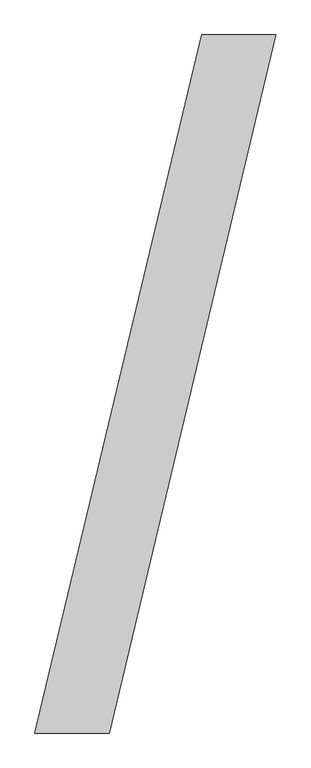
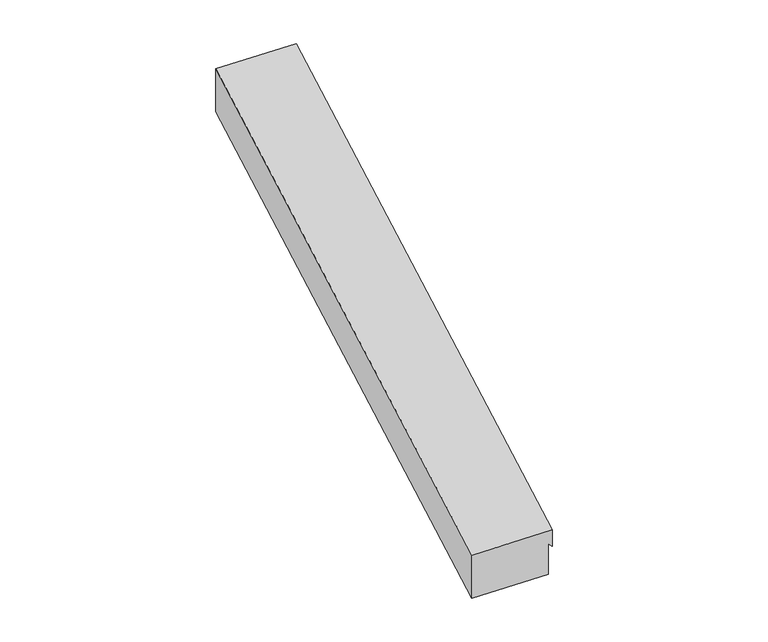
"""IFC4 building model written with IfcOpenShell, lengths in millimetres: proxy geometry, Contre-corniche S : contre-corniche S."""

from ifc_helpers import new_model, si_unit, origin, place, context, project, spatial, faceted_brep, source, transform, mapped, element, save


def generic_models_31f15003(model_context):
    return source(origin(), model_context, "Body", "Brep", [
        faceted_brep([(-4653.6345839, 2900.0, 6901.2365597), (-4036.7595141, 2900.0, 6887.8781754), (-4036.7595141, 2900.0, 6757.8723394), (-4067.6032676, 2900.0, 6787.9415784), (-4067.6032676, 2900.0, 6538.5303824), (-4653.6345839, 2900.0, 6551.2208475), (-5421.9915557, -2900.0, 6944.3820956), (-6038.8666255, -2900.0, 6957.7404799), (-6038.8666255, -2900.0, 6607.7247677), (-5452.8353092, -2900.0, 6595.0343026), (-5452.8353092, -2900.0, 6844.4454987), (-5421.9915557, -2900.0, 6814.3762596)], [[[0, 1, 2, 3, 4, 5]], [[6, 7, 8, 9, 10, 11]], [[1, 0, 7, 6]], [[2, 1, 6, 11]], [[3, 2, 11, 10]], [[4, 3, 10, 9]], [[5, 4, 9, 8]], [[0, 5, 8, 7]]]),
    ])


if __name__ == "__main__":
    model = new_model("IFC4")
    model_context = context("Model", 3, world=origin())
    ifc_project = project(units=[si_unit("LENGTHUNIT", "METRE", prefix="MILLI")], contexts=[model_context])
    site = spatial("IfcSite", under=ifc_project)
    building = spatial("IfcBuilding", under=site)
    placement = place(None, origin())
    generic_models_shape = generic_models_31f15003(model_context)
    element("IfcBuildingElementProxy", 1, Name="Contre-corniche S : contre-corniche S", ObjectType="Contre-corniche S : contre-corniche S", at=placement, inside=building, context=model_context, shape_type="MappedRepresentation", body=[
        mapped(generic_models_shape, transform((0.0, 0.0, 0.0), x_axis=(1.0, 0.0, 0.0), y_axis=(0.0, 1.0, 0.0), z_axis=(0.0, 0.0, 1.0))),
    ])
    save(model, "model.ifc")
